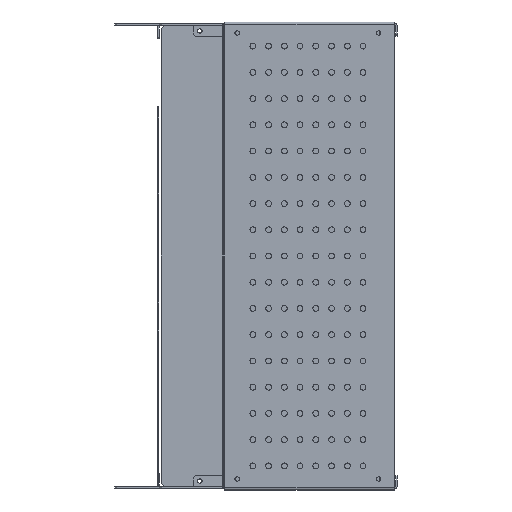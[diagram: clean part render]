
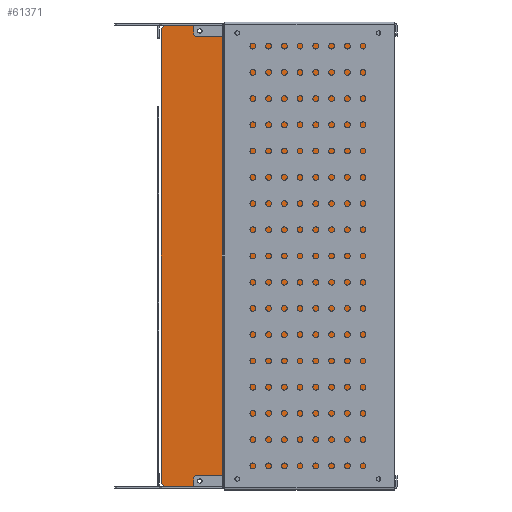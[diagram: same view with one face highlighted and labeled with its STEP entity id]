
A CAD part, front view. The second image highlights one B-rep face of the part: STEP entity #61371.
In plain terms, the highlighted planar face has unit normal (0, -1, 0) as drawn and (0, 0, 1) by its records, which use the part's own axes.
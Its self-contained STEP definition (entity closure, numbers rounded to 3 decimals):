
#59936=CARTESIAN_POINT(' ',(71.25,-214.5,0.));
#59937=VERTEX_POINT(' ',#59936);
#59951=CARTESIAN_POINT(' ',(74.,-214.5,0.));
#59956=DIRECTION(' ',(0.,-0.,1.));
#59961=DIRECTION(' ',(-1.,0.,0.));
#59966=AXIS2_PLACEMENT_3D(' ',#59951,#59956,#59961);
#59971=CIRCLE('',#59966,2.75);
#59976=CARTESIAN_POINT(' ',(76.75,-214.5,0.));
#59977=VERTEX_POINT(' ',#59976);
#59981=EDGE_CURVE(' ',#59937,#59977,#59971,.T.);
#60716=CARTESIAN_POINT(' ',(74.,-214.5,0.));
#60721=DIRECTION(' ',(0.,0.,1.));
#60726=DIRECTION(' ',(1.,0.,0.));
#60731=AXIS2_PLACEMENT_3D(' ',#60716,#60721,#60726);
#60736=CIRCLE('',#60731,2.75);
#60741=EDGE_CURVE(' ',#59977,#59937,#60736,.T.);
#60766=DIRECTION(' ',(-0.,0.,1.));
#60771=CARTESIAN_POINT(' ',(-111.,-221.5,0.));
#60776=DIRECTION(' ',(1.,0.,0.));
#60781=AXIS2_PLACEMENT_3D(' ',#60771,#60766,#60776);
#60786=PLANE('NONE',#60781);
#60791=CARTESIAN_POINT(' ',(-111.,216.5,0.));
#60796=DIRECTION(' ',(0.,-1.,0.));
#60801=VECTOR(' ',#60796,1.);
#60806=LINE('',#60791,#60801);
#60811=CARTESIAN_POINT(' ',(-111.,216.5,0.));
#60812=VERTEX_POINT(' ',#60811);
#60816=CARTESIAN_POINT(' ',(-111.,-216.5,0.));
#60817=VERTEX_POINT(' ',#60816);
#60821=EDGE_CURVE(' ',#60812,#60817,#60806,.T.);
#60826=ORIENTED_EDGE(' ',*,*,#60821,.T.);
#60831=CARTESIAN_POINT(' ',(-111.,-216.5,0.));
#60836=DIRECTION(' ',(0.707,-0.707,0.));
#60841=VECTOR(' ',#60836,1.);
#60846=LINE('',#60831,#60841);
#60851=CARTESIAN_POINT(' ',(-106.,-221.5,0.));
#60852=VERTEX_POINT(' ',#60851);
#60856=EDGE_CURVE(' ',#60817,#60852,#60846,.T.);
#60861=ORIENTED_EDGE(' ',*,*,#60856,.T.);
#60866=CARTESIAN_POINT(' ',(-106.,-221.5,0.));
#60871=DIRECTION(' ',(1.,0.,0.));
#60876=VECTOR(' ',#60871,1.);
#60881=LINE('',#60866,#60876);
#60886=CARTESIAN_POINT(' ',(106.,-221.5,0.));
#60887=VERTEX_POINT(' ',#60886);
#60891=EDGE_CURVE(' ',#60852,#60887,#60881,.T.);
#60896=ORIENTED_EDGE(' ',*,*,#60891,.T.);
#60901=CARTESIAN_POINT(' ',(106.,-221.5,0.));
#60906=DIRECTION(' ',(0.707,0.707,0.));
#60911=VECTOR(' ',#60906,1.);
#60916=LINE('',#60901,#60911);
#60921=CARTESIAN_POINT(' ',(111.,-216.5,0.));
#60922=VERTEX_POINT(' ',#60921);
#60926=EDGE_CURVE(' ',#60887,#60922,#60916,.T.);
#60931=ORIENTED_EDGE(' ',*,*,#60926,.T.);
#60936=CARTESIAN_POINT(' ',(111.,-216.5,0.));
#60941=DIRECTION(' ',(0.,1.,0.));
#60946=VECTOR(' ',#60941,1.);
#60951=LINE('',#60936,#60946);
#60956=CARTESIAN_POINT(' ',(111.,216.5,0.));
#60957=VERTEX_POINT(' ',#60956);
#60961=EDGE_CURVE(' ',#60922,#60957,#60951,.T.);
#60966=ORIENTED_EDGE(' ',*,*,#60961,.T.);
#60971=CARTESIAN_POINT(' ',(111.,216.5,0.));
#60976=DIRECTION(' ',(-0.707,0.707,0.));
#60981=VECTOR(' ',#60976,1.);
#60986=LINE('',#60971,#60981);
#60991=CARTESIAN_POINT(' ',(106.,221.5,0.));
#60992=VERTEX_POINT(' ',#60991);
#60996=EDGE_CURVE(' ',#60957,#60992,#60986,.T.);
#61001=ORIENTED_EDGE(' ',*,*,#60996,.T.);
#61006=CARTESIAN_POINT(' ',(106.,221.5,0.));
#61011=DIRECTION(' ',(-1.,0.,0.));
#61016=VECTOR(' ',#61011,1.);
#61021=LINE('',#61006,#61016);
#61026=CARTESIAN_POINT(' ',(-106.,221.5,0.));
#61027=VERTEX_POINT(' ',#61026);
#61031=EDGE_CURVE(' ',#60992,#61027,#61021,.T.);
#61036=ORIENTED_EDGE(' ',*,*,#61031,.T.);
#61041=CARTESIAN_POINT(' ',(-106.,221.5,0.));
#61046=DIRECTION(' ',(-0.707,-0.707,0.));
#61051=VECTOR(' ',#61046,1.);
#61056=LINE('',#61041,#61051);
#61061=EDGE_CURVE(' ',#61027,#60812,#61056,.T.);
#61066=ORIENTED_EDGE(' ',*,*,#61061,.T.);
#61071=EDGE_LOOP(' ',(#60826,#60861,#60896,#60931,#60966,#61001,#61036,#61066));
#61076=FACE_OUTER_BOUND(' ',#61071,.T.);
#61081=ORIENTED_EDGE(' ',*,*,#60741,.F.);
#61086=ORIENTED_EDGE(' ',*,*,#59981,.F.);
#61091=EDGE_LOOP(' ',(#61081,#61086));
#61096=FACE_BOUND(' ',#61091,.T.);
#61101=CARTESIAN_POINT(' ',(74.,214.5,0.));
#61106=DIRECTION(' ',(0.,0.,1.));
#61111=DIRECTION(' ',(1.,0.,0.));
#61116=AXIS2_PLACEMENT_3D(' ',#61101,#61106,#61111);
#61121=CIRCLE('',#61116,2.75);
#61126=CARTESIAN_POINT(' ',(76.75,214.5,0.));
#61127=VERTEX_POINT(' ',#61126);
#61131=CARTESIAN_POINT(' ',(71.25,214.5,0.));
#61132=VERTEX_POINT(' ',#61131);
#61136=EDGE_CURVE(' ',#61127,#61132,#61121,.T.);
#61141=ORIENTED_EDGE(' ',*,*,#61136,.F.);
#61146=CARTESIAN_POINT(' ',(74.,214.5,0.));
#61151=DIRECTION(' ',(0.,-0.,1.));
#61156=DIRECTION(' ',(-1.,0.,0.));
#61161=AXIS2_PLACEMENT_3D(' ',#61146,#61151,#61156);
#61166=CIRCLE('',#61161,2.75);
#61171=EDGE_CURVE(' ',#61132,#61127,#61166,.T.);
#61176=ORIENTED_EDGE(' ',*,*,#61171,.F.);
#61181=EDGE_LOOP(' ',(#61141,#61176));
#61186=FACE_BOUND(' ',#61181,.T.);
#61191=CARTESIAN_POINT(' ',(-74.,214.5,0.));
#61196=DIRECTION(' ',(0.,0.,1.));
#61201=DIRECTION(' ',(1.,0.,0.));
#61206=AXIS2_PLACEMENT_3D(' ',#61191,#61196,#61201);
#61211=CIRCLE('',#61206,2.75);
#61216=CARTESIAN_POINT(' ',(-71.25,214.5,0.));
#61217=VERTEX_POINT(' ',#61216);
#61221=CARTESIAN_POINT(' ',(-76.75,214.5,0.));
#61222=VERTEX_POINT(' ',#61221);
#61226=EDGE_CURVE(' ',#61217,#61222,#61211,.T.);
#61231=ORIENTED_EDGE(' ',*,*,#61226,.F.);
#61236=CARTESIAN_POINT(' ',(-74.,214.5,0.));
#61241=DIRECTION(' ',(0.,-0.,1.));
#61246=DIRECTION(' ',(-1.,0.,0.));
#61251=AXIS2_PLACEMENT_3D(' ',#61236,#61241,#61246);
#61256=CIRCLE('',#61251,2.75);
#61261=EDGE_CURVE(' ',#61222,#61217,#61256,.T.);
#61266=ORIENTED_EDGE(' ',*,*,#61261,.F.);
#61271=EDGE_LOOP(' ',(#61231,#61266));
#61276=FACE_BOUND(' ',#61271,.T.);
#61281=CARTESIAN_POINT(' ',(-74.,-214.5,0.));
#61286=DIRECTION(' ',(0.,0.,1.));
#61291=DIRECTION(' ',(1.,0.,0.));
#61296=AXIS2_PLACEMENT_3D(' ',#61281,#61286,#61291);
#61301=CIRCLE('',#61296,2.75);
#61306=CARTESIAN_POINT(' ',(-71.25,-214.5,0.));
#61307=VERTEX_POINT(' ',#61306);
#61311=CARTESIAN_POINT(' ',(-76.75,-214.5,0.));
#61312=VERTEX_POINT(' ',#61311);
#61316=EDGE_CURVE(' ',#61307,#61312,#61301,.T.);
#61321=ORIENTED_EDGE(' ',*,*,#61316,.F.);
#61326=CARTESIAN_POINT(' ',(-74.,-214.5,0.));
#61331=DIRECTION(' ',(0.,-0.,1.));
#61336=DIRECTION(' ',(-1.,0.,0.));
#61341=AXIS2_PLACEMENT_3D(' ',#61326,#61331,#61336);
#61346=CIRCLE('',#61341,2.75);
#61351=EDGE_CURVE(' ',#61312,#61307,#61346,.T.);
#61356=ORIENTED_EDGE(' ',*,*,#61351,.F.);
#61361=EDGE_LOOP(' ',(#61321,#61356));
#61366=FACE_BOUND(' ',#61361,.T.);
#61371=ADVANCED_FACE('NONE',(#61076,#61096,#61186,#61276,#61366),#60786,.T.);
